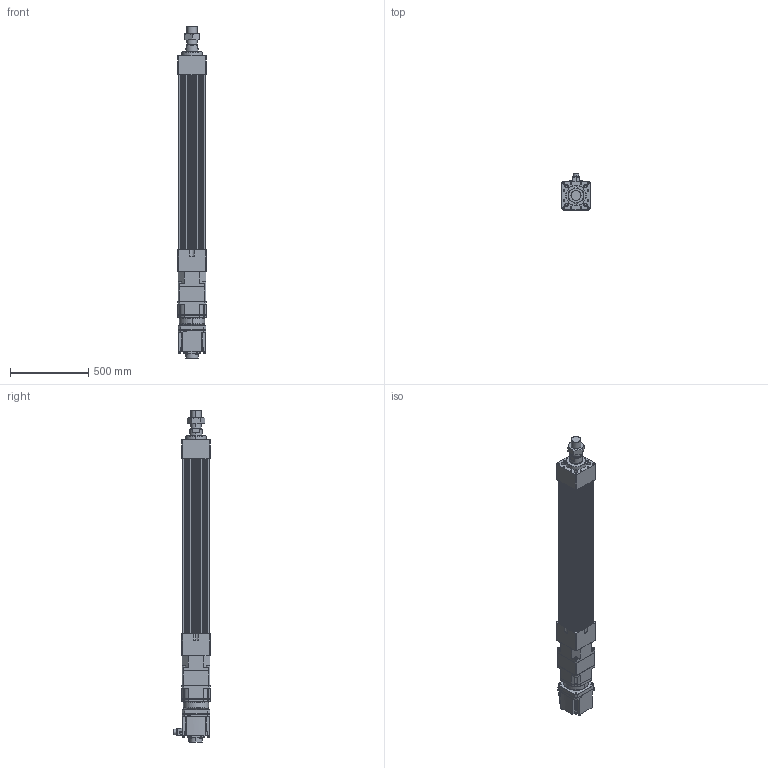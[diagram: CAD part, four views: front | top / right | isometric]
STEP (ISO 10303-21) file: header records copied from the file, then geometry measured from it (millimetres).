
FILE_DESCRIPTION (( 'STEP AP203' ), '1' );
FILE_NAME ('HES180HS-S800-W050G00-M.STEP', '2023-02-01T10:00:31', ( 'tms' ), ( '' ), 'SwSTEP 2.0', 'SolidWorks 2013', '' );
FILE_SCHEMA (( 'CONFIG_CONTROL_DESIGN' ));
Length unit declared in the file: millimetre
Products named in the file (9): P0403600401; HES180-S800-G180; M64X2.0P; HG-SR502; HES180HS-S800-W050G00-M; AB180-003[HG-SR702B]; P1301600001; HES180 ROD M ST800; AB1801
Assembly tree (8 placements, depth 3):
  HES180HS-S800-W050G00-M
    HES180-S800-G180
    HES180 ROD M ST800
    M64X2.0P
    AB180-003[HG-SR702B]
      AB1801
      P1301600001
      P0403600401
    HG-SR502
Bounding box: 180 x 230.85 x 2117 mm (x, y, z)
Volume: 31279350.3 mm3; surface area: 3033679.7 mm2
Topology: 4 solids, 23 shells, 1534 faces, 3945 edges, 2546 vertices
Faces by surface type: cylinder 693, plane 600, cone 174, bspline 63, torus 4
Entity records: 55246 total; most frequent: CARTESIAN_POINT 16431, DIRECTION 8177, ORIENTED_EDGE 7750, EDGE_CURVE 3899, AXIS2_PLACEMENT_3D 3072, VERTEX_POINT 2546, LINE 2033, VECTOR 2033
